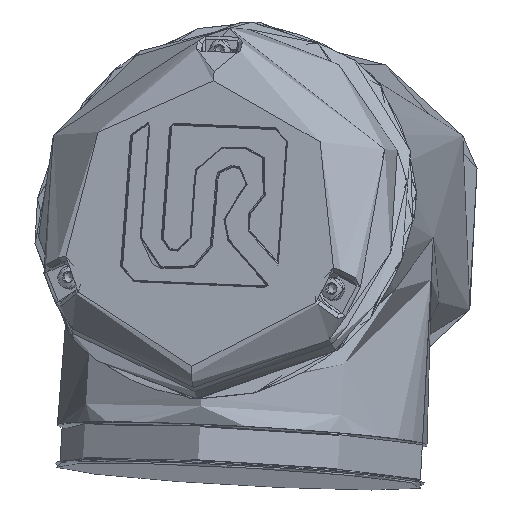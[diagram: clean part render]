
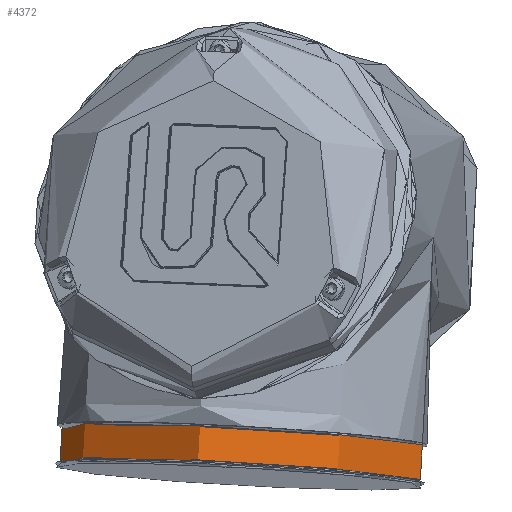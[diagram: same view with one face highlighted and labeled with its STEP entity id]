
A CAD part, front view. The second image highlights one B-rep face of the part: STEP entity #4372.
In plain terms, the highlighted cylindrical face has radius 45 mm (diameter 90 mm), a full revolution.
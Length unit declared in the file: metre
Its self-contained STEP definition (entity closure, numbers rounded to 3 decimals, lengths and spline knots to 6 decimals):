
#68=CYLINDRICAL_SURFACE('',#5178,0.045);
#572=ORIENTED_EDGE('',*,*,#1887,.T.);
#573=ORIENTED_EDGE('',*,*,#1888,.T.);
#574=ORIENTED_EDGE('',*,*,#1886,.F.);
#575=ORIENTED_EDGE('',*,*,#1885,.F.);
#1885=EDGE_CURVE('NONE',#2589,#2590,#3042,.F.);
#1886=EDGE_CURVE('NONE',#2590,#2589,#3043,.F.);
#1887=EDGE_CURVE('NONE',#2591,#2592,#3044,.T.);
#1888=EDGE_CURVE('NONE',#2592,#2591,#3045,.T.);
#2589=VERTEX_POINT('',#6896);
#2590=VERTEX_POINT('',#6897);
#2591=VERTEX_POINT('',#6921);
#2592=VERTEX_POINT('',#6922);
#3042=B_SPLINE_CURVE_WITH_KNOTS('',3,(#6885,#6886,#6887,#6888,#6889,#6890,
#6891,#6892,#6893,#6894,#6895),.UNSPECIFIED.,.F.,.F.,(4,1,1,1,1,1,1,1,4),
(0.,22.5,45.,67.5,90.,112.5,135.,157.5,180.),.UNSPECIFIED.);
#3043=B_SPLINE_CURVE_WITH_KNOTS('',3,(#6898,#6899,#6900,#6901,#6902,#6903,
#6904,#6905,#6906,#6907,#6908),.UNSPECIFIED.,.F.,.F.,(4,1,1,1,1,1,1,1,4),
(180.,202.5,225.,247.5,270.,292.5,315.,337.5,360.),.UNSPECIFIED.);
#3044=B_SPLINE_CURVE_WITH_KNOTS('',3,(#6910,#6911,#6912,#6913,#6914,#6915,
#6916,#6917,#6918,#6919,#6920),.UNSPECIFIED.,.F.,.F.,(4,1,1,1,1,1,1,1,4),
(180.,202.5,225.,247.5,270.,292.5,315.,337.5,360.),.UNSPECIFIED.);
#3045=B_SPLINE_CURVE_WITH_KNOTS('',3,(#6923,#6924,#6925,#6926,#6927,#6928,
#6929,#6930,#6931,#6932,#6933),.UNSPECIFIED.,.F.,.F.,(4,1,1,1,1,1,1,1,4),
(0.,22.5,45.,67.5,90.,112.5,135.,157.5,180.),.UNSPECIFIED.);
#3633=EDGE_LOOP('',(#572,#573));
#3634=EDGE_LOOP('',(#574,#575));
#3945=FACE_BOUND('',#3633,.T.);
#3946=FACE_BOUND('',#3634,.T.);
#4372=ADVANCED_FACE('NONE',(#3945,#3946),#68,.T.);
#5178=AXIS2_PLACEMENT_3D('',#8314,#5426,#5427);
#5426=DIRECTION('',(-0.055,-0.048,-0.997));
#5427=DIRECTION('',(-0.972,0.23,0.042));
#6885=CARTESIAN_POINT('',(0.252921,0.366999,0.630097));
#6886=CARTESIAN_POINT('',(0.251582,0.361274,0.630448));
#6887=CARTESIAN_POINT('',(0.246625,0.350365,0.63125));
#6888=CARTESIAN_POINT('',(0.233488,0.338107,0.632568));
#6889=CARTESIAN_POINT('',(0.216649,0.331825,0.633799));
#6890=CARTESIAN_POINT('',(0.198671,0.332473,0.634756));
#6891=CARTESIAN_POINT('',(0.182291,0.339954,0.635293));
#6892=CARTESIAN_POINT('',(0.170003,0.353128,0.63533));
#6893=CARTESIAN_POINT('',(0.163678,0.36999,0.634859));
#6894=CARTESIAN_POINT('',(0.164078,0.381977,0.634256));
#6895=CARTESIAN_POINT('',(0.165417,0.387703,0.633904));
#6896=CARTESIAN_POINT('',(0.165417,0.387703,0.633904));
#6897=CARTESIAN_POINT('',(0.252921,0.366999,0.630097));
#6898=CARTESIAN_POINT('',(0.165417,0.387703,0.633904));
#6899=CARTESIAN_POINT('',(0.166757,0.393428,0.633553));
#6900=CARTESIAN_POINT('',(0.171713,0.404337,0.632751));
#6901=CARTESIAN_POINT('',(0.18485,0.416595,0.631433));
#6902=CARTESIAN_POINT('',(0.201689,0.422877,0.630202));
#6903=CARTESIAN_POINT('',(0.219667,0.422229,0.629245));
#6904=CARTESIAN_POINT('',(0.236047,0.414748,0.628707));
#6905=CARTESIAN_POINT('',(0.248335,0.401574,0.628671));
#6906=CARTESIAN_POINT('',(0.25466,0.384712,0.629141));
#6907=CARTESIAN_POINT('',(0.25426,0.372725,0.629745));
#6908=CARTESIAN_POINT('',(0.252921,0.366999,0.630097));
#6910=CARTESIAN_POINT('',(0.25246,0.366592,0.621706));
#6911=CARTESIAN_POINT('',(0.253799,0.372317,0.621354));
#6912=CARTESIAN_POINT('',(0.254199,0.384305,0.620751));
#6913=CARTESIAN_POINT('',(0.247874,0.401167,0.62028));
#6914=CARTESIAN_POINT('',(0.235586,0.414341,0.620316));
#6915=CARTESIAN_POINT('',(0.219206,0.421821,0.620854));
#6916=CARTESIAN_POINT('',(0.201228,0.42247,0.621811));
#6917=CARTESIAN_POINT('',(0.184389,0.416187,0.623042));
#6918=CARTESIAN_POINT('',(0.171251,0.40393,0.62436));
#6919=CARTESIAN_POINT('',(0.166295,0.393021,0.625162));
#6920=CARTESIAN_POINT('',(0.164956,0.387295,0.625513));
#6921=CARTESIAN_POINT('',(0.25246,0.366592,0.621706));
#6922=CARTESIAN_POINT('',(0.164956,0.387295,0.625513));
#6923=CARTESIAN_POINT('',(0.164956,0.387295,0.625513));
#6924=CARTESIAN_POINT('',(0.163617,0.38157,0.625865));
#6925=CARTESIAN_POINT('',(0.163217,0.369583,0.626468));
#6926=CARTESIAN_POINT('',(0.169542,0.352721,0.626939));
#6927=CARTESIAN_POINT('',(0.18183,0.339547,0.626903));
#6928=CARTESIAN_POINT('',(0.19821,0.332066,0.626365));
#6929=CARTESIAN_POINT('',(0.216188,0.331418,0.625408));
#6930=CARTESIAN_POINT('',(0.233027,0.3377,0.624177));
#6931=CARTESIAN_POINT('',(0.246164,0.349957,0.622859));
#6932=CARTESIAN_POINT('',(0.25112,0.360867,0.622057));
#6933=CARTESIAN_POINT('',(0.25246,0.366592,0.621706));
#8314=CARTESIAN_POINT('',(0.208938,0.377147,0.627805));
